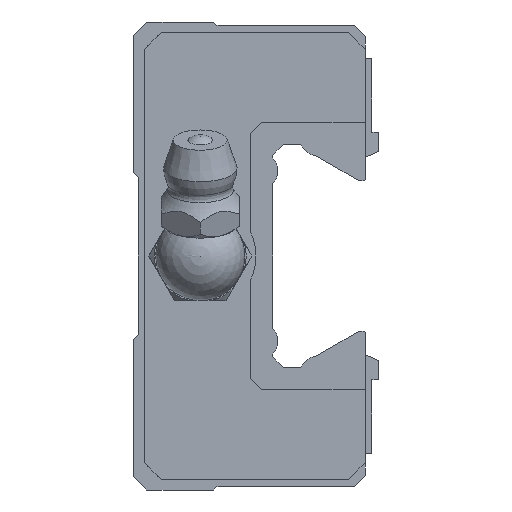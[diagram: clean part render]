
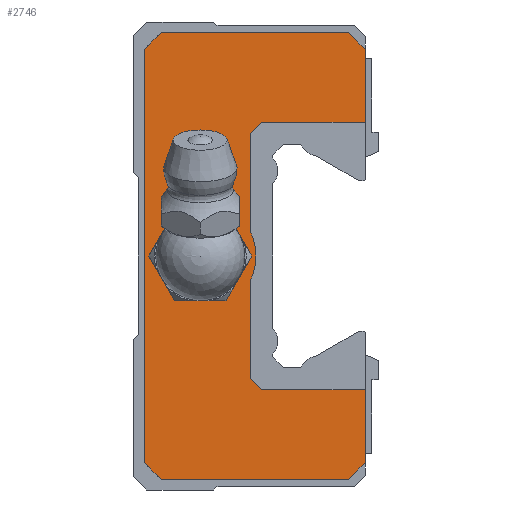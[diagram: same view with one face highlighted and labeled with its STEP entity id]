
A CAD part, left-side view. The second image highlights one B-rep face of the part: STEP entity #2746.
In plain terms, the highlighted planar face has unit normal (-1, 0, 0).
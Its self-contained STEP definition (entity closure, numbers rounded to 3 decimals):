
#78=LINE('',#4054,#374);
#124=LINE('',#4147,#420);
#139=LINE('',#4178,#435);
#146=LINE('',#4192,#442);
#150=LINE('',#4199,#446);
#158=LINE('',#4216,#454);
#161=LINE('',#4221,#457);
#169=LINE('',#4233,#465);
#184=LINE('',#4261,#480);
#194=LINE('',#4282,#490);
#276=LINE('',#4491,#572);
#277=LINE('',#4493,#573);
#278=LINE('',#4495,#574);
#279=LINE('',#4496,#575);
#280=LINE('',#4498,#576);
#374=VECTOR('',#3207,1000.);
#420=VECTOR('',#3271,1000.);
#435=VECTOR('',#3288,1000.);
#442=VECTOR('',#3299,1000.);
#446=VECTOR('',#3305,1000.);
#454=VECTOR('',#3315,1000.);
#457=VECTOR('',#3320,1000.);
#465=VECTOR('',#3336,1000.);
#480=VECTOR('',#3355,1000.);
#490=VECTOR('',#3367,1000.);
#572=VECTOR('',#3569,1000.);
#573=VECTOR('',#3570,1000.);
#574=VECTOR('',#3571,1000.);
#575=VECTOR('',#3572,1000.);
#576=VECTOR('',#3573,1000.);
#709=PLANE('',#2965);
#799=CIRCLE('',#2966,5.);
#800=CIRCLE('',#2967,3.);
#1348=ORIENTED_EDGE('',*,*,#1663,.T.);
#1349=ORIENTED_EDGE('',*,*,#1875,.F.);
#1350=ORIENTED_EDGE('',*,*,#1876,.T.);
#1351=ORIENTED_EDGE('',*,*,#1877,.T.);
#1352=ORIENTED_EDGE('',*,*,#1878,.T.);
#1353=ORIENTED_EDGE('',*,*,#1769,.F.);
#1354=ORIENTED_EDGE('',*,*,#1735,.F.);
#1355=ORIENTED_EDGE('',*,*,#1731,.F.);
#1356=ORIENTED_EDGE('',*,*,#1724,.F.);
#1357=ORIENTED_EDGE('',*,*,#1754,.F.);
#1358=ORIENTED_EDGE('',*,*,#1709,.F.);
#1359=ORIENTED_EDGE('',*,*,#1746,.F.);
#1360=ORIENTED_EDGE('',*,*,#1743,.F.);
#1361=ORIENTED_EDGE('',*,*,#1779,.F.);
#1362=ORIENTED_EDGE('',*,*,#1879,.T.);
#1363=ORIENTED_EDGE('',*,*,#1880,.T.);
#1364=ORIENTED_EDGE('',*,*,#1881,.T.);
#1663=EDGE_CURVE('',#2017,#2016,#78,.T.);
#1709=EDGE_CURVE('',#2054,#2055,#124,.T.);
#1724=EDGE_CURVE('',#2069,#2070,#139,.T.);
#1731=EDGE_CURVE('',#2070,#2075,#146,.T.);
#1735=EDGE_CURVE('',#2075,#2077,#150,.T.);
#1743=EDGE_CURVE('',#2084,#2085,#158,.T.);
#1746=EDGE_CURVE('',#2085,#2054,#161,.T.);
#1754=EDGE_CURVE('',#2055,#2069,#169,.T.);
#1769=EDGE_CURVE('',#2077,#2097,#184,.T.);
#1779=EDGE_CURVE('',#2106,#2084,#194,.T.);
#1875=EDGE_CURVE('',#2173,#2016,#799,.T.);
#1876=EDGE_CURVE('',#2173,#2174,#276,.T.);
#1877=EDGE_CURVE('',#2174,#2175,#277,.T.);
#1878=EDGE_CURVE('',#2175,#2097,#278,.T.);
#1879=EDGE_CURVE('',#2106,#2176,#279,.T.);
#1880=EDGE_CURVE('',#2176,#2017,#280,.T.);
#1881=EDGE_CURVE('',#2177,#2177,#800,.T.);
#2016=VERTEX_POINT('',#4053);
#2017=VERTEX_POINT('',#4055);
#2054=VERTEX_POINT('',#4146);
#2055=VERTEX_POINT('',#4148);
#2069=VERTEX_POINT('',#4177);
#2070=VERTEX_POINT('',#4179);
#2075=VERTEX_POINT('',#4193);
#2077=VERTEX_POINT('',#4200);
#2084=VERTEX_POINT('',#4215);
#2085=VERTEX_POINT('',#4217);
#2097=VERTEX_POINT('',#4262);
#2106=VERTEX_POINT('',#4281);
#2173=VERTEX_POINT('',#4490);
#2174=VERTEX_POINT('',#4492);
#2175=VERTEX_POINT('',#4494);
#2176=VERTEX_POINT('',#4497);
#2177=VERTEX_POINT('',#4500);
#2375=EDGE_LOOP('',(#1348,#1349,#1350,#1351,#1352,#1353,#1354,#1355,#1356,
#1357,#1358,#1359,#1360,#1361,#1362,#1363));
#2376=EDGE_LOOP('',(#1364));
#2564=FACE_BOUND('',#2375,.T.);
#2565=FACE_BOUND('',#2376,.T.);
#2746=ADVANCED_FACE('',(#2564,#2565),#709,.F.);
#2965=AXIS2_PLACEMENT_3D('',#4488,#3565,#3566);
#2966=AXIS2_PLACEMENT_3D('',#4489,#3567,#3568);
#2967=AXIS2_PLACEMENT_3D('',#4499,#3574,#3575);
#3207=DIRECTION('',(0.,0.,1.));
#3271=DIRECTION('',(0.,0.707,0.707));
#3288=DIRECTION('',(0.,-0.707,0.707));
#3299=DIRECTION('',(0.,-1.,0.));
#3305=DIRECTION('',(0.,-0.707,-0.707));
#3315=DIRECTION('',(0.,0.707,-0.707));
#3320=DIRECTION('',(0.,1.,0.));
#3336=DIRECTION('',(0.,0.,1.));
#3355=DIRECTION('',(0.,0.,-1.));
#3367=DIRECTION('',(0.,0.,-1.));
#3565=DIRECTION('',(1.,0.,0.));
#3566=DIRECTION('',(0.,0.,-1.));
#3567=DIRECTION('',(1.,0.,0.));
#3568=DIRECTION('',(0.,0.,-1.));
#3569=DIRECTION('',(0.,0.,1.));
#3570=DIRECTION('',(0.,-0.707,0.707));
#3571=DIRECTION('',(0.,-1.,0.));
#3572=DIRECTION('',(0.,1.,0.));
#3573=DIRECTION('',(0.,0.707,0.707));
#3574=DIRECTION('',(1.,0.,0.));
#3575=DIRECTION('',(0.,0.,-1.));
#4053=CARTESIAN_POINT('',(-31.1,11.5,-2.179));
#4054=CARTESIAN_POINT('',(-31.1,11.5,-11.));
#4055=CARTESIAN_POINT('',(-31.1,11.5,-11.));
#4146=CARTESIAN_POINT('',(-31.1,19.5,-20.05));
#4147=CARTESIAN_POINT('',(-31.1,19.5,-20.05));
#4148=CARTESIAN_POINT('',(-31.1,21.,-18.55));
#4177=CARTESIAN_POINT('',(-31.1,21.,18.55));
#4178=CARTESIAN_POINT('',(-31.1,21.,18.55));
#4179=CARTESIAN_POINT('',(-31.1,19.5,20.05));
#4192=CARTESIAN_POINT('',(-31.1,19.5,20.05));
#4193=CARTESIAN_POINT('',(-31.1,2.7,20.05));
#4199=CARTESIAN_POINT('',(-31.1,2.7,20.05));
#4200=CARTESIAN_POINT('',(-31.1,1.2,18.55));
#4215=CARTESIAN_POINT('',(-31.1,1.2,-18.55));
#4216=CARTESIAN_POINT('',(-31.1,1.2,-18.55));
#4217=CARTESIAN_POINT('',(-31.1,2.7,-20.05));
#4221=CARTESIAN_POINT('',(-31.1,2.7,-20.05));
#4233=CARTESIAN_POINT('',(-31.1,21.,-18.55));
#4261=CARTESIAN_POINT('',(-31.1,1.2,19.7));
#4262=CARTESIAN_POINT('',(-31.1,1.2,12.));
#4281=CARTESIAN_POINT('',(-31.1,1.2,-12.));
#4282=CARTESIAN_POINT('',(-31.1,1.2,19.7));
#4488=CARTESIAN_POINT('',(-31.1,0.,0.));
#4489=CARTESIAN_POINT('',(-31.1,16.,0.));
#4490=CARTESIAN_POINT('',(-31.1,11.5,2.179));
#4491=CARTESIAN_POINT('',(-31.1,11.5,-11.));
#4492=CARTESIAN_POINT('',(-31.1,11.5,11.));
#4493=CARTESIAN_POINT('',(-31.1,11.5,11.));
#4494=CARTESIAN_POINT('',(-31.1,10.5,12.));
#4495=CARTESIAN_POINT('',(-31.1,10.5,12.));
#4496=CARTESIAN_POINT('',(-31.1,1.2,-12.));
#4497=CARTESIAN_POINT('',(-31.1,10.5,-12.));
#4498=CARTESIAN_POINT('',(-31.1,10.5,-12.));
#4499=CARTESIAN_POINT('',(-31.1,16.,0.));
#4500=CARTESIAN_POINT('',(-31.1,16.,-3.));
